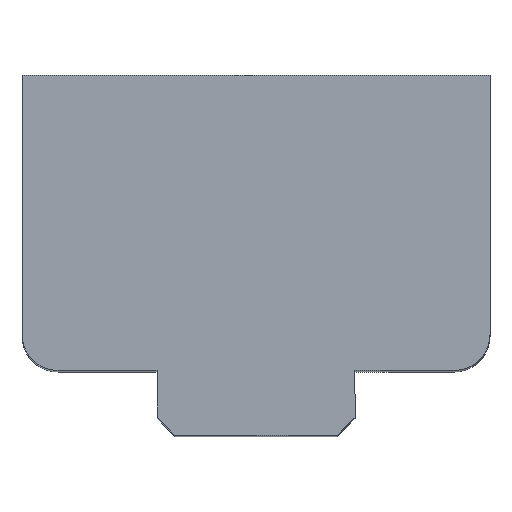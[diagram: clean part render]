
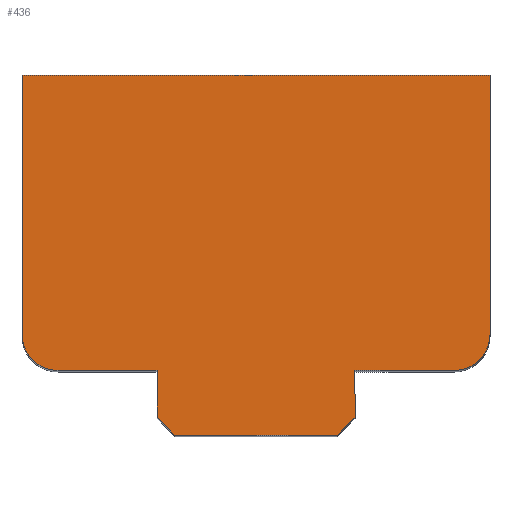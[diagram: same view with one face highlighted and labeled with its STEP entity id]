
A CAD part, top view. The second image highlights one B-rep face of the part: STEP entity #436.
In plain terms, the highlighted planar face has unit normal (0, 0, 1).
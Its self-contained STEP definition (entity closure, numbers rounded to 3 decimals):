
#2 = PLANE ( 'NONE',  #612 ) ;
#11 = LINE ( 'NONE', #482, #310 ) ;
#15 = DIRECTION ( 'NONE',  ( 0., -1., 0. ) ) ;
#21 = CARTESIAN_POINT ( 'NONE',  ( 2.25, -10., 13. ) ) ;
#46 = DIRECTION ( 'NONE',  ( -1., 0., 0. ) ) ;
#47 = LINE ( 'NONE', #561, #728 ) ;
#58 = LINE ( 'NONE', #238, #682 ) ;
#59 = EDGE_CURVE ( 'NONE', #674, #376, #653, .T. ) ;
#62 = DIRECTION ( 'NONE',  ( 0., 0., 1. ) ) ;
#68 = ORIENTED_EDGE ( 'NONE', *, *, #316, .T. ) ;
#83 = ORIENTED_EDGE ( 'NONE', *, *, #479, .T. ) ;
#90 = EDGE_CURVE ( 'NONE', #487, #351, #635, .T. ) ;
#96 = CARTESIAN_POINT ( 'NONE',  ( 2.75, -9.5, 13. ) ) ;
#114 = AXIS2_PLACEMENT_3D ( 'NONE', #140, #714, #128 ) ;
#128 = DIRECTION ( 'NONE',  ( -1., 0., 0. ) ) ;
#133 = DIRECTION ( 'NONE',  ( -1., 0., 0. ) ) ;
#139 = CARTESIAN_POINT ( 'NONE',  ( -5.5, -8.2, 13. ) ) ;
#140 = CARTESIAN_POINT ( 'NONE',  ( -5.5, -7.2, 13. ) ) ;
#154 = CARTESIAN_POINT ( 'NONE',  ( 6.5, -7.2, 13. ) ) ;
#157 = VERTEX_POINT ( 'NONE', #712 ) ;
#170 = CARTESIAN_POINT ( 'NONE',  ( -2.75, -10., 13. ) ) ;
#175 = CARTESIAN_POINT ( 'NONE',  ( -2.75, -8.2, 13. ) ) ;
#180 = DIRECTION ( 'NONE',  ( -1., 0., 0. ) ) ;
#184 = LINE ( 'NONE', #175, #454 ) ;
#191 = VERTEX_POINT ( 'NONE', #475 ) ;
#193 = CARTESIAN_POINT ( 'NONE',  ( -6.5, -7.2, 13. ) ) ;
#199 = VERTEX_POINT ( 'NONE', #292 ) ;
#202 = LINE ( 'NONE', #330, #420 ) ;
#218 = VERTEX_POINT ( 'NONE', #737 ) ;
#238 = CARTESIAN_POINT ( 'NONE',  ( 2.75, -8.2, 13. ) ) ;
#245 = DIRECTION ( 'NONE',  ( 1., 0., 0. ) ) ;
#258 = AXIS2_PLACEMENT_3D ( 'NONE', #406, #62, #180 ) ;
#285 = CARTESIAN_POINT ( 'NONE',  ( -6.5, -8.2, 13. ) ) ;
#289 = DIRECTION ( 'NONE',  ( 0., 0., -1. ) ) ;
#292 = CARTESIAN_POINT ( 'NONE',  ( -2.75, -9.5, 13. ) ) ;
#296 = DIRECTION ( 'NONE',  ( 0.707, -0.707, 0. ) ) ;
#306 = CARTESIAN_POINT ( 'NONE',  ( 2.75, -8.2, 13. ) ) ;
#310 = VECTOR ( 'NONE', #296, 1000. ) ;
#314 = CARTESIAN_POINT ( 'NONE',  ( -2.75, -8.2, 13. ) ) ;
#316 = EDGE_CURVE ( 'NONE', #389, #157, #553, .T. ) ;
#317 = CARTESIAN_POINT ( 'NONE',  ( -6.5, 0., 13. ) ) ;
#330 = CARTESIAN_POINT ( 'NONE',  ( 2.75, -10., 13. ) ) ;
#331 = EDGE_LOOP ( 'NONE', ( #68, #472, #668, #457, #83, #383, #673, #664, #727, #684, #707, #549 ) ) ;
#332 = EDGE_CURVE ( 'NONE', #157, #442, #575, .T. ) ;
#351 = VERTEX_POINT ( 'NONE', #139 ) ;
#353 = CARTESIAN_POINT ( 'NONE',  ( 2.75, -9.5, 13. ) ) ;
#376 = VERTEX_POINT ( 'NONE', #96 ) ;
#383 = ORIENTED_EDGE ( 'NONE', *, *, #90, .T. ) ;
#389 = VERTEX_POINT ( 'NONE', #306 ) ;
#406 = CARTESIAN_POINT ( 'NONE',  ( 5.5, -7.2, 13. ) ) ;
#420 = VECTOR ( 'NONE', #550, 1000. ) ;
#436 = ADVANCED_FACE ( 'NONE', ( #532 ), #2, .F. ) ;
#442 = VERTEX_POINT ( 'NONE', #154 ) ;
#443 = VERTEX_POINT ( 'NONE', #485 ) ;
#454 = VECTOR ( 'NONE', #245, 1000. ) ;
#457 = ORIENTED_EDGE ( 'NONE', *, *, #507, .T. ) ;
#460 = VERTEX_POINT ( 'NONE', #314 ) ;
#462 = DIRECTION ( 'NONE',  ( 0., 1., 0. ) ) ;
#472 = ORIENTED_EDGE ( 'NONE', *, *, #332, .T. ) ;
#473 = DIRECTION ( 'NONE',  ( 0.707, 0.707, 0. ) ) ;
#475 = CARTESIAN_POINT ( 'NONE',  ( 6.5, 0., 13. ) ) ;
#479 = EDGE_CURVE ( 'NONE', #218, #487, #513, .T. ) ;
#482 = CARTESIAN_POINT ( 'NONE',  ( -2.25, -10., 13. ) ) ;
#485 = CARTESIAN_POINT ( 'NONE',  ( -2.25, -10., 13. ) ) ;
#487 = VERTEX_POINT ( 'NONE', #193 ) ;
#495 = CARTESIAN_POINT ( 'NONE',  ( 6.5, -8.2, 13. ) ) ;
#497 = EDGE_CURVE ( 'NONE', #199, #443, #11, .T. ) ;
#502 = EDGE_CURVE ( 'NONE', #443, #674, #202, .T. ) ;
#507 = EDGE_CURVE ( 'NONE', #191, #218, #519, .T. ) ;
#508 = VECTOR ( 'NONE', #133, 1000. ) ;
#513 = LINE ( 'NONE', #285, #529 ) ;
#519 = LINE ( 'NONE', #317, #508 ) ;
#525 = DIRECTION ( 'NONE',  ( 0., 1., 0. ) ) ;
#529 = VECTOR ( 'NONE', #15, 1000. ) ;
#532 = FACE_OUTER_BOUND ( 'NONE', #331, .T. ) ;
#534 = EDGE_CURVE ( 'NONE', #460, #199, #603, .T. ) ;
#549 = ORIENTED_EDGE ( 'NONE', *, *, #560, .T. ) ;
#550 = DIRECTION ( 'NONE',  ( 1., 0., 0. ) ) ;
#553 = LINE ( 'NONE', #495, #570 ) ;
#560 = EDGE_CURVE ( 'NONE', #376, #389, #58, .T. ) ;
#561 = CARTESIAN_POINT ( 'NONE',  ( 6.5, 0., 13. ) ) ;
#565 = EDGE_CURVE ( 'NONE', #351, #460, #184, .T. ) ;
#570 = VECTOR ( 'NONE', #627, 1000. ) ;
#575 = CIRCLE ( 'NONE', #258, 1. ) ;
#588 = DIRECTION ( 'NONE',  ( 0., -1., 0. ) ) ;
#603 = LINE ( 'NONE', #170, #620 ) ;
#612 = AXIS2_PLACEMENT_3D ( 'NONE', #718, #289, #46 ) ;
#620 = VECTOR ( 'NONE', #588, 1000. ) ;
#627 = DIRECTION ( 'NONE',  ( 1., 0., 0. ) ) ;
#635 = CIRCLE ( 'NONE', #114, 1. ) ;
#648 = VECTOR ( 'NONE', #473, 1000. ) ;
#653 = LINE ( 'NONE', #353, #648 ) ;
#664 = ORIENTED_EDGE ( 'NONE', *, *, #534, .T. ) ;
#668 = ORIENTED_EDGE ( 'NONE', *, *, #730, .T. ) ;
#673 = ORIENTED_EDGE ( 'NONE', *, *, #565, .T. ) ;
#674 = VERTEX_POINT ( 'NONE', #21 ) ;
#682 = VECTOR ( 'NONE', #462, 1000. ) ;
#684 = ORIENTED_EDGE ( 'NONE', *, *, #502, .T. ) ;
#707 = ORIENTED_EDGE ( 'NONE', *, *, #59, .T. ) ;
#712 = CARTESIAN_POINT ( 'NONE',  ( 5.5, -8.2, 13. ) ) ;
#714 = DIRECTION ( 'NONE',  ( 0., 0., 1. ) ) ;
#718 = CARTESIAN_POINT ( 'NONE',  ( 0., 0., 13. ) ) ;
#727 = ORIENTED_EDGE ( 'NONE', *, *, #497, .T. ) ;
#728 = VECTOR ( 'NONE', #525, 1000. ) ;
#730 = EDGE_CURVE ( 'NONE', #442, #191, #47, .T. ) ;
#737 = CARTESIAN_POINT ( 'NONE',  ( -6.5, 0., 13. ) ) ;
